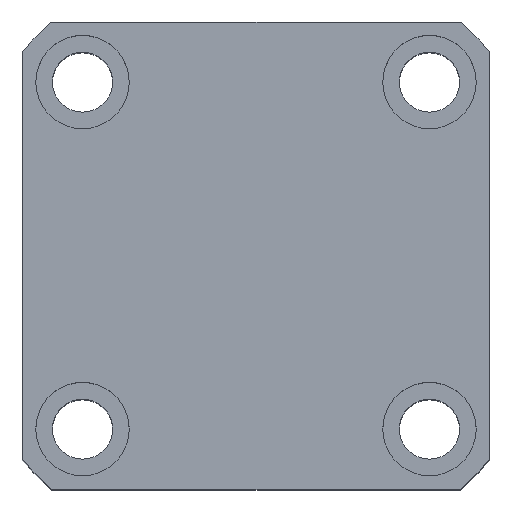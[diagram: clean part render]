
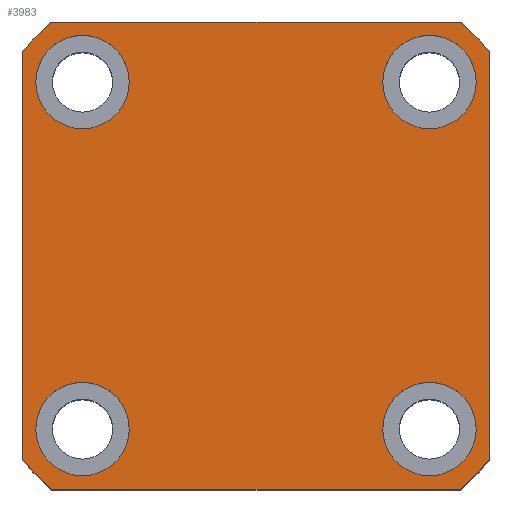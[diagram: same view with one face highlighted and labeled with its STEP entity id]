
A CAD part, top view. The second image highlights one B-rep face of the part: STEP entity #3983.
In plain terms, the highlighted planar face has unit normal (0, 0, 1).
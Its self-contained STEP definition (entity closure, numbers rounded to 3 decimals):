
#3026=PLANE('',#12851);
#3823=FACE_BOUND('',#5006,.T.);
#3824=FACE_BOUND('',#5007,.T.);
#3825=FACE_BOUND('',#5008,.T.);
#3826=FACE_BOUND('',#5009,.T.);
#3827=FACE_BOUND('',#5010,.T.);
#3983=ADVANCED_FACE('',(#3823,#3824,#3825,#3826,#3827),#3026,.T.);
#5006=EDGE_LOOP('',(#7894));
#5007=EDGE_LOOP('',(#7895));
#5008=EDGE_LOOP('',(#7896));
#5009=EDGE_LOOP('',(#7897));
#5010=EDGE_LOOP('',(#7898,#7899,#7900,#7901,#7902,#7903,#7904,#7905));
#5530=LINE('',#17627,#6453);
#5538=LINE('',#17924,#6461);
#5542=LINE('',#17933,#6465);
#5546=LINE('',#17942,#6469);
#6453=VECTOR('',#13343,1.);
#6461=VECTOR('',#13475,1.);
#6465=VECTOR('',#13481,1.);
#6469=VECTOR('',#13487,1.);
#7537=CIRCLE('',#12832,7.);
#7539=CIRCLE('',#12835,7.);
#7541=CIRCLE('',#12838,7.);
#7543=CIRCLE('',#12841,7.);
#7545=CIRCLE('',#12847,46.5);
#7546=CIRCLE('',#12848,46.5);
#7547=CIRCLE('',#12849,46.5);
#7548=CIRCLE('',#12850,46.5);
#7894=ORIENTED_EDGE('',*,*,#11443,.F.);
#7895=ORIENTED_EDGE('',*,*,#11445,.F.);
#7896=ORIENTED_EDGE('',*,*,#11447,.F.);
#7897=ORIENTED_EDGE('',*,*,#11449,.F.);
#7898=ORIENTED_EDGE('',*,*,#11452,.T.);
#7899=ORIENTED_EDGE('',*,*,#11463,.T.);
#7900=ORIENTED_EDGE('',*,*,#11399,.T.);
#7901=ORIENTED_EDGE('',*,*,#11464,.T.);
#7902=ORIENTED_EDGE('',*,*,#11456,.T.);
#7903=ORIENTED_EDGE('',*,*,#11465,.T.);
#7904=ORIENTED_EDGE('',*,*,#11460,.T.);
#7905=ORIENTED_EDGE('',*,*,#11466,.T.);
#10424=VERTEX_POINT('',#17625);
#10426=VERTEX_POINT('',#17628);
#10466=VERTEX_POINT('',#17902);
#10468=VERTEX_POINT('',#17907);
#10470=VERTEX_POINT('',#17912);
#10472=VERTEX_POINT('',#17917);
#10474=VERTEX_POINT('',#17922);
#10476=VERTEX_POINT('',#17925);
#10478=VERTEX_POINT('',#17931);
#10480=VERTEX_POINT('',#17934);
#10482=VERTEX_POINT('',#17940);
#10484=VERTEX_POINT('',#17943);
#11399=EDGE_CURVE('',#10426,#10424,#5530,.T.);
#11443=EDGE_CURVE('',#10466,#10466,#7537,.T.);
#11445=EDGE_CURVE('',#10468,#10468,#7539,.T.);
#11447=EDGE_CURVE('',#10470,#10470,#7541,.T.);
#11449=EDGE_CURVE('',#10472,#10472,#7543,.T.);
#11452=EDGE_CURVE('',#10476,#10474,#5538,.T.);
#11456=EDGE_CURVE('',#10480,#10478,#5542,.T.);
#11460=EDGE_CURVE('',#10484,#10482,#5546,.T.);
#11463=EDGE_CURVE('',#10474,#10426,#7545,.T.);
#11464=EDGE_CURVE('',#10424,#10480,#7546,.T.);
#11465=EDGE_CURVE('',#10478,#10484,#7547,.T.);
#11466=EDGE_CURVE('',#10482,#10476,#7548,.T.);
#12832=AXIS2_PLACEMENT_3D('',#17901,#13450,#13451);
#12835=AXIS2_PLACEMENT_3D('',#17906,#13456,#13457);
#12838=AXIS2_PLACEMENT_3D('',#17911,#13462,#13463);
#12841=AXIS2_PLACEMENT_3D('',#17916,#13468,#13469);
#12847=AXIS2_PLACEMENT_3D('',#17948,#13492,#13493);
#12848=AXIS2_PLACEMENT_3D('',#17949,#13494,#13495);
#12849=AXIS2_PLACEMENT_3D('',#17950,#13496,#13497);
#12850=AXIS2_PLACEMENT_3D('',#17951,#13498,#13499);
#12851=AXIS2_PLACEMENT_3D('',#17952,#13500,#13501);
#13343=DIRECTION('',(-1.,0.,0.));
#13450=DIRECTION('',(0.,0.,1.));
#13451=DIRECTION('',(1.,0.,0.));
#13456=DIRECTION('',(0.,0.,1.));
#13457=DIRECTION('',(1.,0.,0.));
#13462=DIRECTION('',(0.,0.,1.));
#13463=DIRECTION('',(1.,0.,0.));
#13468=DIRECTION('',(0.,0.,1.));
#13469=DIRECTION('',(1.,0.,0.));
#13475=DIRECTION('',(0.,1.,0.));
#13481=DIRECTION('',(0.,-1.,0.));
#13487=DIRECTION('',(1.,0.,0.));
#13492=DIRECTION('',(0.,0.,1.));
#13493=DIRECTION('',(1.,0.,0.));
#13494=DIRECTION('',(0.,0.,1.));
#13495=DIRECTION('',(1.,0.,0.));
#13496=DIRECTION('',(0.,0.,1.));
#13497=DIRECTION('',(1.,0.,0.));
#13498=DIRECTION('',(0.,0.,1.));
#13499=DIRECTION('',(1.,0.,0.));
#13500=DIRECTION('',(0.,0.,1.));
#13501=DIRECTION('',(-1.,0.,0.));
#17625=CARTESIAN_POINT('',(-40.594,40.901,41.257));
#17627=CARTESIAN_POINT('',(-44.979,40.901,41.257));
#17628=CARTESIAN_POINT('',(20.635,40.901,41.257));
#17901=CARTESIAN_POINT('',(-35.979,-20.099,41.257));
#17902=CARTESIAN_POINT('',(-28.979,-20.099,41.257));
#17906=CARTESIAN_POINT('',(16.021,-20.099,41.257));
#17907=CARTESIAN_POINT('',(23.021,-20.099,41.257));
#17911=CARTESIAN_POINT('',(16.021,31.901,41.257));
#17912=CARTESIAN_POINT('',(23.021,31.901,41.257));
#17916=CARTESIAN_POINT('',(-35.979,31.901,41.257));
#17917=CARTESIAN_POINT('',(-28.979,31.901,41.257));
#17922=CARTESIAN_POINT('',(25.021,36.515,41.257));
#17924=CARTESIAN_POINT('',(25.021,40.901,41.257));
#17925=CARTESIAN_POINT('',(25.021,-24.714,41.257));
#17931=CARTESIAN_POINT('',(-44.979,-24.714,41.257));
#17933=CARTESIAN_POINT('',(-44.979,40.901,41.257));
#17934=CARTESIAN_POINT('',(-44.979,36.515,41.257));
#17940=CARTESIAN_POINT('',(20.635,-29.099,41.257));
#17942=CARTESIAN_POINT('',(-44.979,-29.099,41.257));
#17943=CARTESIAN_POINT('',(-40.594,-29.099,41.257));
#17948=CARTESIAN_POINT('',(-9.979,5.901,41.257));
#17949=CARTESIAN_POINT('',(-9.979,5.901,41.257));
#17950=CARTESIAN_POINT('',(-9.979,5.901,41.257));
#17951=CARTESIAN_POINT('',(-9.979,5.901,41.257));
#17952=CARTESIAN_POINT('',(-9.979,5.901,41.257));
